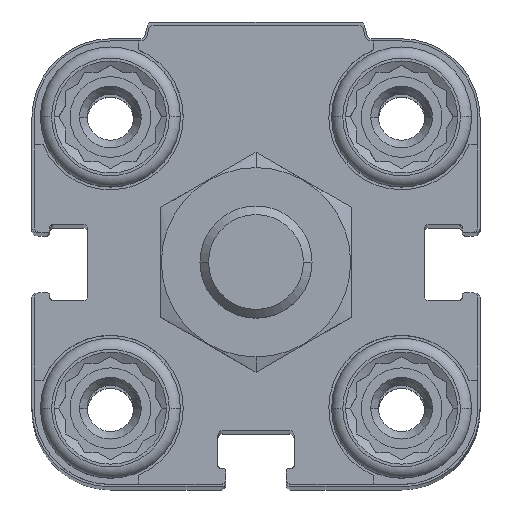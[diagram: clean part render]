
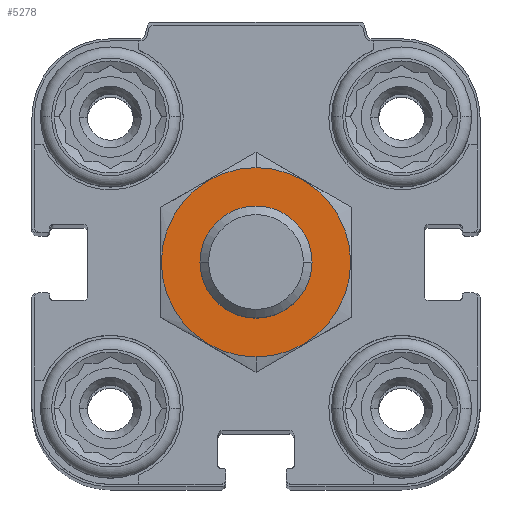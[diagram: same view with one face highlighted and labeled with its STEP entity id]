
A CAD part, top view. The second image highlights one B-rep face of the part: STEP entity #5278.
In plain terms, the highlighted planar face has unit normal (0, 0, 1).
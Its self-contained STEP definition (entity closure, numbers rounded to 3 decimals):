
#226 = CARTESIAN_POINT ( 'NONE',  ( 0., 0., 14.5 ) ) ;
#1356 = DIRECTION ( 'NONE',  ( 0., -1., 0. ) ) ;
#1570 = CIRCLE ( 'NONE', #15482, 5. ) ;
#1684 = ORIENTED_EDGE ( 'NONE', *, *, #4607, .T. ) ;
#1772 = CIRCLE ( 'NONE', #17609, 8.45 ) ;
#1838 = VERTEX_POINT ( 'NONE', #9061 ) ;
#2076 = CARTESIAN_POINT ( 'NONE',  ( 0., 0., 14.5 ) ) ;
#2288 = FACE_BOUND ( 'NONE', #19414, .T. ) ;
#2595 = VERTEX_POINT ( 'NONE', #7068 ) ;
#3168 = DIRECTION ( 'NONE',  ( 0., 0., -1. ) ) ;
#3531 = CARTESIAN_POINT ( 'NONE',  ( 0., 8.45, 14.5 ) ) ;
#4183 = ORIENTED_EDGE ( 'NONE', *, *, #16718, .F. ) ;
#4474 = DIRECTION ( 'NONE',  ( 0., 0., -1. ) ) ;
#4480 = EDGE_CURVE ( 'NONE', #6532, #2595, #13536, .T. ) ;
#4607 = EDGE_CURVE ( 'NONE', #12560, #1838, #1570, .T. ) ;
#5278 = ADVANCED_FACE ( 'NONE', ( #9801, #2288 ), #14638, .F. ) ;
#5841 = DIRECTION ( 'NONE',  ( 0., -1., 0. ) ) ;
#5907 = DIRECTION ( 'NONE',  ( 0., 0., -1. ) ) ;
#6532 = VERTEX_POINT ( 'NONE', #3531 ) ;
#7009 = DIRECTION ( 'NONE',  ( 0., 0., -1. ) ) ;
#7068 = CARTESIAN_POINT ( 'NONE',  ( 0., -8.45, 14.5 ) ) ;
#7780 = CIRCLE ( 'NONE', #9407, 5. ) ;
#8275 = DIRECTION ( 'NONE',  ( 0., 0., -1. ) ) ;
#8276 = ORIENTED_EDGE ( 'NONE', *, *, #4480, .F. ) ;
#9061 = CARTESIAN_POINT ( 'NONE',  ( 0., 5., 14.5 ) ) ;
#9407 = AXIS2_PLACEMENT_3D ( 'NONE', #19874, #4474, #19988 ) ;
#9801 = FACE_OUTER_BOUND ( 'NONE', #18105, .T. ) ;
#9994 = AXIS2_PLACEMENT_3D ( 'NONE', #11769, #5907, #11981 ) ;
#10345 = AXIS2_PLACEMENT_3D ( 'NONE', #2076, #8275, #5841 ) ;
#11769 = CARTESIAN_POINT ( 'NONE',  ( 0., 0., 14.5 ) ) ;
#11981 = DIRECTION ( 'NONE',  ( 0., -1., 0. ) ) ;
#12560 = VERTEX_POINT ( 'NONE', #15959 ) ;
#13536 = CIRCLE ( 'NONE', #9994, 8.45 ) ;
#13588 = DIRECTION ( 'NONE',  ( 0., -1., 0. ) ) ;
#14477 = EDGE_CURVE ( 'NONE', #1838, #12560, #7780, .T. ) ;
#14638 = PLANE ( 'NONE',  #10345 ) ;
#15482 = AXIS2_PLACEMENT_3D ( 'NONE', #226, #3168, #1356 ) ;
#15959 = CARTESIAN_POINT ( 'NONE',  ( 0., -5., 14.5 ) ) ;
#16385 = ORIENTED_EDGE ( 'NONE', *, *, #14477, .T. ) ;
#16718 = EDGE_CURVE ( 'NONE', #2595, #6532, #1772, .T. ) ;
#17609 = AXIS2_PLACEMENT_3D ( 'NONE', #19266, #7009, #13588 ) ;
#18105 = EDGE_LOOP ( 'NONE', ( #4183, #8276 ) ) ;
#19266 = CARTESIAN_POINT ( 'NONE',  ( 0., 0., 14.5 ) ) ;
#19414 = EDGE_LOOP ( 'NONE', ( #16385, #1684 ) ) ;
#19874 = CARTESIAN_POINT ( 'NONE',  ( 0., 0., 14.5 ) ) ;
#19988 = DIRECTION ( 'NONE',  ( 0., -1., 0. ) ) ;
